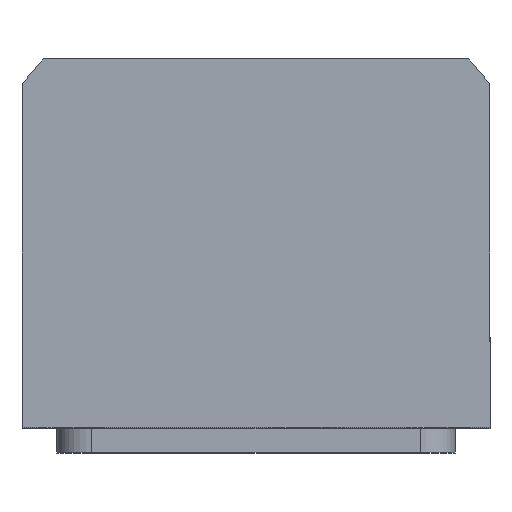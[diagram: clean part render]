
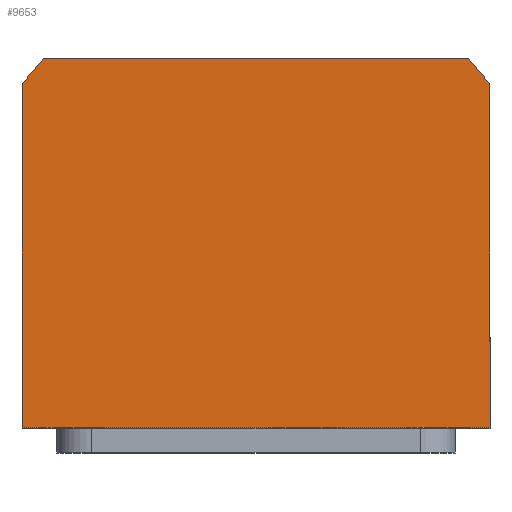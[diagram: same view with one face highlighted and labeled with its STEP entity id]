
A CAD part, top view. The second image highlights one B-rep face of the part: STEP entity #9653.
In plain terms, the highlighted planar face has unit normal (0, 0, 1).
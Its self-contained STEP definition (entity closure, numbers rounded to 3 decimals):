
#353 = DIRECTION ( 'NONE',  ( 1., 0., 0. ) ) ;
#408 = VERTEX_POINT ( 'NONE', #2015 ) ;
#563 = DIRECTION ( 'NONE',  ( 0., 0., 1. ) ) ;
#664 = DIRECTION ( 'NONE',  ( 0., 1., 0. ) ) ;
#711 = ORIENTED_EDGE ( 'NONE', *, *, #1736, .T. ) ;
#929 = LINE ( 'NONE', #1745, #3025 ) ;
#1018 = CARTESIAN_POINT ( 'NONE',  ( -47., -34., 67.5 ) ) ;
#1049 = VERTEX_POINT ( 'NONE', #1018 ) ;
#1404 = DIRECTION ( 'NONE',  ( 1., 0., 0. ) ) ;
#1505 = VECTOR ( 'NONE', #5816, 1000. ) ;
#1515 = CARTESIAN_POINT ( 'NONE',  ( 47., 34.832, 67.5 ) ) ;
#1736 = EDGE_CURVE ( 'NONE', #408, #4602, #7378, .T. ) ;
#1745 = CARTESIAN_POINT ( 'NONE',  ( 47., -34., 67.5 ) ) ;
#2015 = CARTESIAN_POINT ( 'NONE',  ( -42.688, 40., 67.5 ) ) ;
#2057 = VERTEX_POINT ( 'NONE', #6604 ) ;
#2324 = ORIENTED_EDGE ( 'NONE', *, *, #9966, .T. ) ;
#2429 = EDGE_CURVE ( 'NONE', #2057, #5451, #9791, .T. ) ;
#2592 = DIRECTION ( 'NONE',  ( 1., 0., 0. ) ) ;
#2662 = EDGE_CURVE ( 'NONE', #4602, #1049, #9408, .T. ) ;
#2795 = EDGE_CURVE ( 'NONE', #3878, #408, #8733, .T. ) ;
#2931 = CARTESIAN_POINT ( 'NONE',  ( 0., 0., 67.5 ) ) ;
#3025 = VECTOR ( 'NONE', #2592, 1000. ) ;
#3866 = CARTESIAN_POINT ( 'NONE',  ( 47., 34.832, 67.5 ) ) ;
#3878 = VERTEX_POINT ( 'NONE', #9256 ) ;
#4276 = AXIS2_PLACEMENT_3D ( 'NONE', #2931, #9814, #353 ) ;
#4587 = ORIENTED_EDGE ( 'NONE', *, *, #9868, .T. ) ;
#4602 = VERTEX_POINT ( 'NONE', #8083 ) ;
#5002 = CARTESIAN_POINT ( 'NONE',  ( -47., -34., 67.5 ) ) ;
#5451 = VERTEX_POINT ( 'NONE', #3866 ) ;
#5511 = AXIS2_PLACEMENT_3D ( 'NONE', #7724, #5942, #8579 ) ;
#5614 = ORIENTED_EDGE ( 'NONE', *, *, #2795, .T. ) ;
#5816 = DIRECTION ( 'NONE',  ( 0., -1., 0. ) ) ;
#5828 = CIRCLE ( 'NONE', #5511, 58.5 ) ;
#5942 = DIRECTION ( 'NONE',  ( 0., 0., 1. ) ) ;
#6083 = CARTESIAN_POINT ( 'NONE',  ( -42.688, 40., 67.5 ) ) ;
#6102 = FACE_OUTER_BOUND ( 'NONE', #8052, .T. ) ;
#6584 = AXIS2_PLACEMENT_3D ( 'NONE', #10049, #563, #1404 ) ;
#6604 = CARTESIAN_POINT ( 'NONE',  ( 47., -34., 67.5 ) ) ;
#6771 = ORIENTED_EDGE ( 'NONE', *, *, #2429, .T. ) ;
#7017 = DIRECTION ( 'NONE',  ( -1., 0., 0. ) ) ;
#7378 = CIRCLE ( 'NONE', #4276, 58.5 ) ;
#7467 = PLANE ( 'NONE',  #6584 ) ;
#7524 = VECTOR ( 'NONE', #7017, 1000. ) ;
#7724 = CARTESIAN_POINT ( 'NONE',  ( 0., 0., 67.5 ) ) ;
#7962 = ORIENTED_EDGE ( 'NONE', *, *, #2662, .T. ) ;
#8052 = EDGE_LOOP ( 'NONE', ( #2324, #6771, #4587, #5614, #711, #7962 ) ) ;
#8083 = CARTESIAN_POINT ( 'NONE',  ( -47., 34.832, 67.5 ) ) ;
#8579 = DIRECTION ( 'NONE',  ( 1., 0., 0. ) ) ;
#8733 = LINE ( 'NONE', #6083, #7524 ) ;
#9124 = VECTOR ( 'NONE', #664, 1000. ) ;
#9256 = CARTESIAN_POINT ( 'NONE',  ( 42.688, 40., 67.5 ) ) ;
#9408 = LINE ( 'NONE', #5002, #1505 ) ;
#9653 = ADVANCED_FACE ( 'NONE', ( #6102 ), #7467, .T. ) ;
#9791 = LINE ( 'NONE', #1515, #9124 ) ;
#9814 = DIRECTION ( 'NONE',  ( 0., 0., 1. ) ) ;
#9868 = EDGE_CURVE ( 'NONE', #5451, #3878, #5828, .T. ) ;
#9966 = EDGE_CURVE ( 'NONE', #1049, #2057, #929, .T. ) ;
#10049 = CARTESIAN_POINT ( 'NONE',  ( 0., 0., 67.5 ) ) ;
